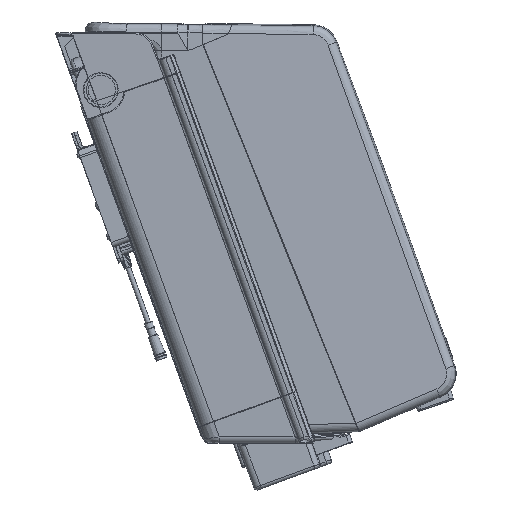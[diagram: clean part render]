
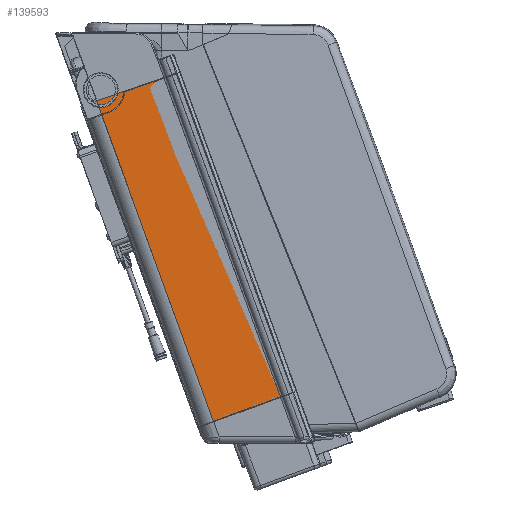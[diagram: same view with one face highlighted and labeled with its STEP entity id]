
A CAD part, top view. The second image highlights one B-rep face of the part: STEP entity #139593.
In plain terms, the highlighted planar face has unit normal (-0.014, -0.005, 1).
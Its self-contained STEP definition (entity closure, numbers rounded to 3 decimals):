
#11969=PLANE('',#150511);
#17587=FACE_OUTER_BOUND('',#26431,.T.);
#26431=EDGE_LOOP('',(#112461,#112462,#112463,#112464));
#41467=LINE('',#422688,#50502);
#41515=LINE('',#422873,#50550);
#41516=LINE('',#422876,#50551);
#41517=LINE('',#422877,#50552);
#50502=VECTOR('',#175041,56.961);
#50550=VECTOR('',#175215,272.568);
#50551=VECTOR('',#175218,56.953);
#50552=VECTOR('',#175219,271.574);
#61853=VERTEX_POINT('',#422685);
#61854=VERTEX_POINT('',#422687);
#61928=VERTEX_POINT('',#422871);
#61929=VERTEX_POINT('',#422875);
#79409=EDGE_CURVE('',#61854,#61853,#41467,.T.);
#79505=EDGE_CURVE('',#61853,#61928,#41515,.T.);
#79506=EDGE_CURVE('',#61929,#61928,#41516,.T.);
#79507=EDGE_CURVE('',#61929,#61854,#41517,.T.);
#112461=ORIENTED_EDGE('',*,*,#79409,.T.);
#112462=ORIENTED_EDGE('',*,*,#79505,.T.);
#112463=ORIENTED_EDGE('',*,*,#79506,.F.);
#112464=ORIENTED_EDGE('',*,*,#79507,.T.);
#139593=ADVANCED_FACE('',(#17587),#11969,.F.);
#150511=AXIS2_PLACEMENT_3D('',#422874,#175216,#175217);
#175041=DIRECTION('',(-0.945,-0.326,-0.015));
#175215=DIRECTION('',(0.343,-0.939,0.));
#175216=DIRECTION('center_axis',(0.014,0.005,
-1.));
#175217=DIRECTION('ref_axis',(-0.939,-0.343,-0.015));
#175218=DIRECTION('',(-0.939,-0.343,-0.015));
#175219=DIRECTION('',(-0.343,0.939,0.));
#422685=CARTESIAN_POINT('',(-358.903,299.505,54.689));
#422687=CARTESIAN_POINT('',(-305.068,318.094,55.564));
#422688=CARTESIAN_POINT('',(-305.068,318.094,55.564));
#422871=CARTESIAN_POINT('',(-265.456,43.456,54.689));
#422873=CARTESIAN_POINT('',(-358.903,299.505,54.689));
#422874=CARTESIAN_POINT('Origin',(-286.987,308.647,55.775));
#422875=CARTESIAN_POINT('',(-211.961,62.98,55.564));
#422876=CARTESIAN_POINT('',(-211.961,62.98,55.564));
#422877=CARTESIAN_POINT('',(-211.961,62.98,55.564));
